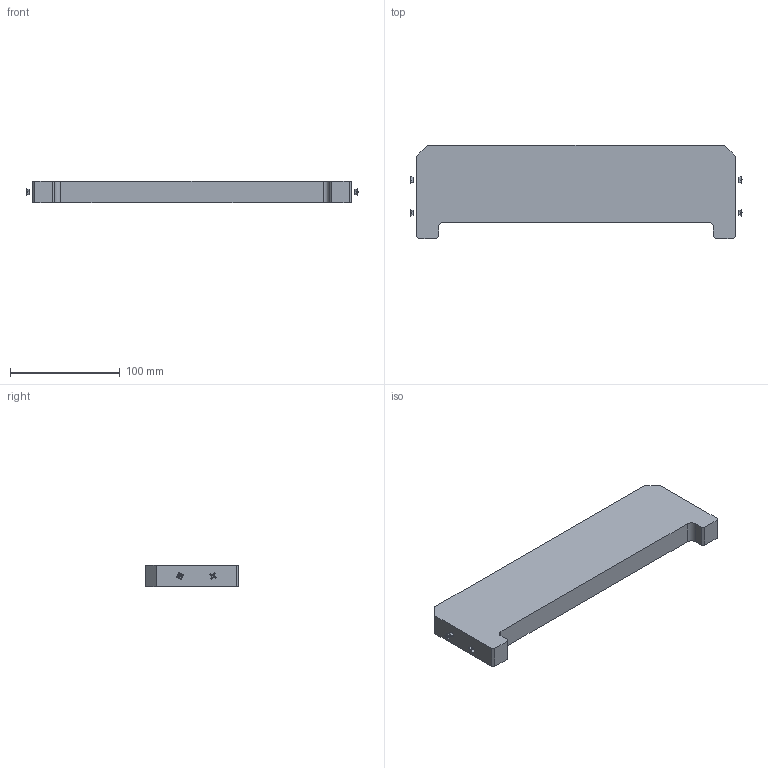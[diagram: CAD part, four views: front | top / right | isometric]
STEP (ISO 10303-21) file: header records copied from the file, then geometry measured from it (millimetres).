
FILE_DESCRIPTION(('CAx-IF Rec.Pracs.---Model Styling and Organization---1.2---2011-12-15','CAx-IF Rec.Pracs.---Geometric and Assembly Validation Properties---4.1---2014-06-16','CAx-IF Rec.Pracs.---PMI Polyline Presentation---2.0---2013-05-24'),'2;1');
FILE_NAME('R5M2GBS65.stp','2021-05-05T12:53:14+03:00',(''),(''),'STEP Interface 4.4 by CT CoreTechnologie','3D_Evolution4.4 by CT CoreTechnologie','');
FILE_SCHEMA(('AUTOMOTIVE_DESIGN { 1 0 10303 214 1 1 1 1 }'));
Length unit declared in the file: millimetre
Products named in the file (3): R5M2GBS65; ST5,5x13 DIN 7981_thread; RB.0887.00.00.1_-01 (x5)
Assembly tree (5 placements, depth 2):
  R5M2GBS65
    ST5,5x13 DIN 7981_thread  x4
    RB.0887.00.00.1_-01 (x5)
Bounding box: 302 x 85 x 20 mm (x, y, z)
Surface area: 57626.2 mm2 (no closed solid volume)
Topology: 0 solids, 5 shells, 100 faces, 270 edges, 182 vertices
Faces by surface type: plane 70, bspline 24, cylinder 6
Entity records: 1596 total; most frequent: CARTESIAN_POINT 312, DIRECTION 234, ORIENTED_EDGE 234, EDGE_CURVE 117, VECTOR 86, LINE 86, VERTEX_POINT 80, AXIS2_PLACEMENT_3D 74
